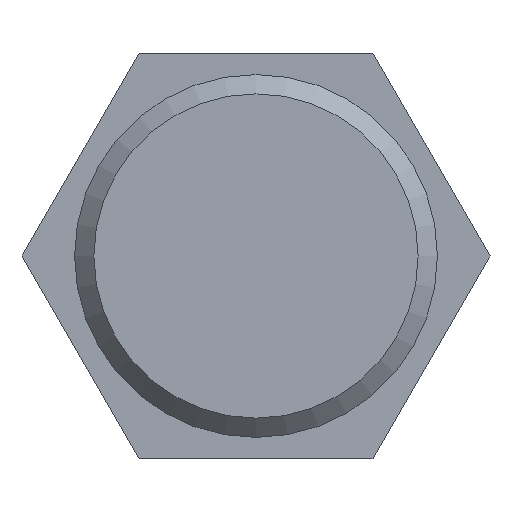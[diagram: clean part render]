
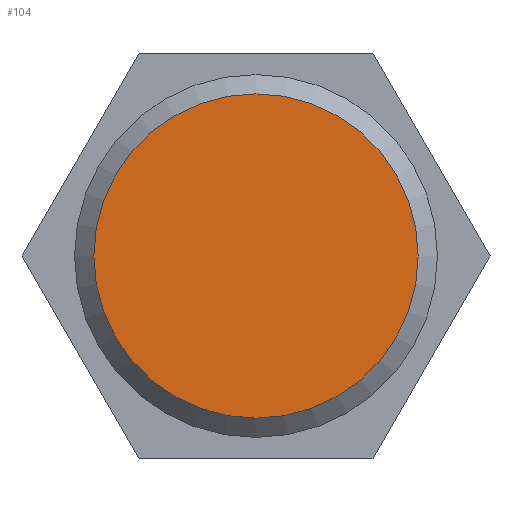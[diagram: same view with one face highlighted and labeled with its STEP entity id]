
A CAD part, left-side view. The second image highlights one B-rep face of the part: STEP entity #104.
In plain terms, the highlighted planar face has unit normal (-1, 0, 0).
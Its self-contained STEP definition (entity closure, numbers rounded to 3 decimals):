
#73=CARTESIAN_POINT('',(0.,8.4,0.));
#74=VERTEX_POINT('',#73);
#75=CARTESIAN_POINT('',(0.,0.0,0.0));
#76=DIRECTION('',(1.0,0.0,0.0));
#77=DIRECTION('',(0.0,-1.0,0.0));
#78=AXIS2_PLACEMENT_3D('',#75,#76,#77);
#79=CIRCLE('',#78,8.4);
#80=EDGE_CURVE('',#74,#74,#79,.T.);
#96=CARTESIAN_POINT('',(0.,4.7,0.0));
#97=DIRECTION('',(-1.0,0.0,0.0));
#98=DIRECTION('',(0.0,0.0,1.0));
#99=AXIS2_PLACEMENT_3D('',#96,#97,#98);
#100=PLANE('',#99);
#101=ORIENTED_EDGE('',*,*,#80,.F.);
#102=EDGE_LOOP('',(#101));
#103=FACE_OUTER_BOUND('',#102,.T.);
#104=ADVANCED_FACE('',(#103),#100,.T.);
